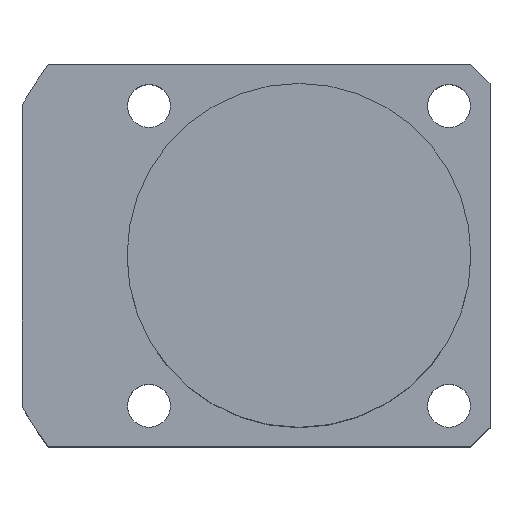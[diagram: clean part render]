
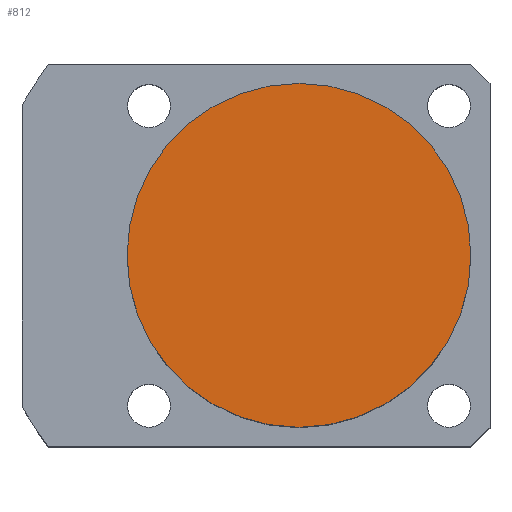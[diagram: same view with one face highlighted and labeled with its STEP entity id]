
A CAD part, top view. The second image highlights one B-rep face of the part: STEP entity #812.
In plain terms, the highlighted planar face has unit normal (0, 0, 1).
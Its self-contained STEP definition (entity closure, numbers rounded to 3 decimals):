
#34 = VERTEX_POINT ( 'NONE', #670 ) ;
#39 = DIRECTION ( 'NONE',  ( 0., 0., 1. ) ) ;
#48 = EDGE_LOOP ( 'NONE', ( #1530, #1138 ) ) ;
#56 = CIRCLE ( 'NONE', #1001, 18. ) ;
#149 = AXIS2_PLACEMENT_3D ( 'NONE', #153, #39, #1667 ) ;
#153 = CARTESIAN_POINT ( 'NONE',  ( 0., 0., 38.5 ) ) ;
#223 = CARTESIAN_POINT ( 'NONE',  ( 18., 0., 38.5 ) ) ;
#334 = EDGE_CURVE ( 'NONE', #34, #1330, #56, .T. ) ;
#418 = DIRECTION ( 'NONE',  ( 0., 0., 1. ) ) ;
#608 = CARTESIAN_POINT ( 'NONE',  ( 0., 0., 38.5 ) ) ;
#670 = CARTESIAN_POINT ( 'NONE',  ( -18., 0., 38.5 ) ) ;
#785 = CIRCLE ( 'NONE', #149, 18. ) ;
#812 = ADVANCED_FACE ( 'NONE', ( #1423 ), #1209, .T. ) ;
#868 = EDGE_CURVE ( 'NONE', #1330, #34, #785, .T. ) ;
#928 = AXIS2_PLACEMENT_3D ( 'NONE', #608, #418, #1678 ) ;
#957 = DIRECTION ( 'NONE',  ( 0., 0., 1. ) ) ;
#1001 = AXIS2_PLACEMENT_3D ( 'NONE', #1091, #957, #1100 ) ;
#1091 = CARTESIAN_POINT ( 'NONE',  ( 0., 0., 38.5 ) ) ;
#1100 = DIRECTION ( 'NONE',  ( 1., 0., 0. ) ) ;
#1138 = ORIENTED_EDGE ( 'NONE', *, *, #868, .T. ) ;
#1209 = PLANE ( 'NONE',  #928 ) ;
#1330 = VERTEX_POINT ( 'NONE', #223 ) ;
#1423 = FACE_OUTER_BOUND ( 'NONE', #48, .T. ) ;
#1530 = ORIENTED_EDGE ( 'NONE', *, *, #334, .T. ) ;
#1667 = DIRECTION ( 'NONE',  ( 1., 0., 0. ) ) ;
#1678 = DIRECTION ( 'NONE',  ( 1., 0., 0. ) ) ;
